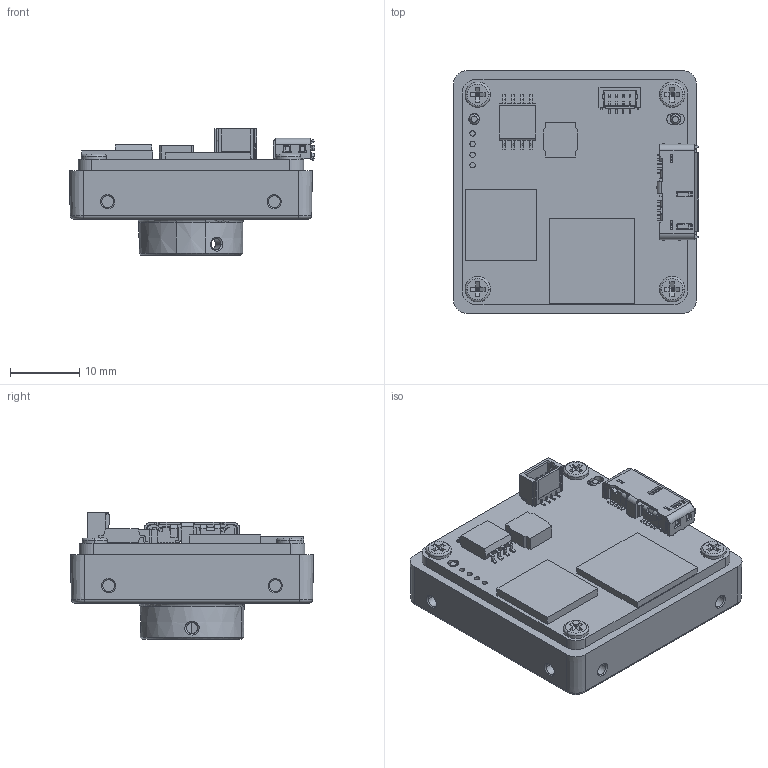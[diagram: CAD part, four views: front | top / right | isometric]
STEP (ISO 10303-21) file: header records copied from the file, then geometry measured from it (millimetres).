
FILE_DESCRIPTION((''),'2;1');
FILE_NAME('PCB-ISG1307_ASM-S_ASM','2021-12-08T13:07:54',('wangyijun6'),(''),'CREO PARAMETRIC BY PTC INC, 2017260','CREO PARAMETRIC BY PTC INC, 2017260','');
FILE_SCHEMA(('CONFIG_CONTROL_DESIGN'));
Products named in the file (1): PCB-ISG1307_ASM-S_ASM
Bounding box: 35.32 x 35 x 18.22 mm (x, y, z)
Volume: 10785.2 mm3; surface area: 5871.6 mm2
Topology: 2 solids, 27 shells, 1769 faces, 5113 edges, 3303 vertices
Faces by surface type: plane 1089, cylinder 506, cone 79, torus 46, bspline 41, sphere 8
Entity records: 62905 total; most frequent: CARTESIAN_POINT 15889, ORIENTED_EDGE 10210, DIRECTION 9399, EDGE_CURVE 5113, VECTOR 3571, LINE 3571, VERTEX_POINT 3303, AXIS2_PLACEMENT_3D 2914
